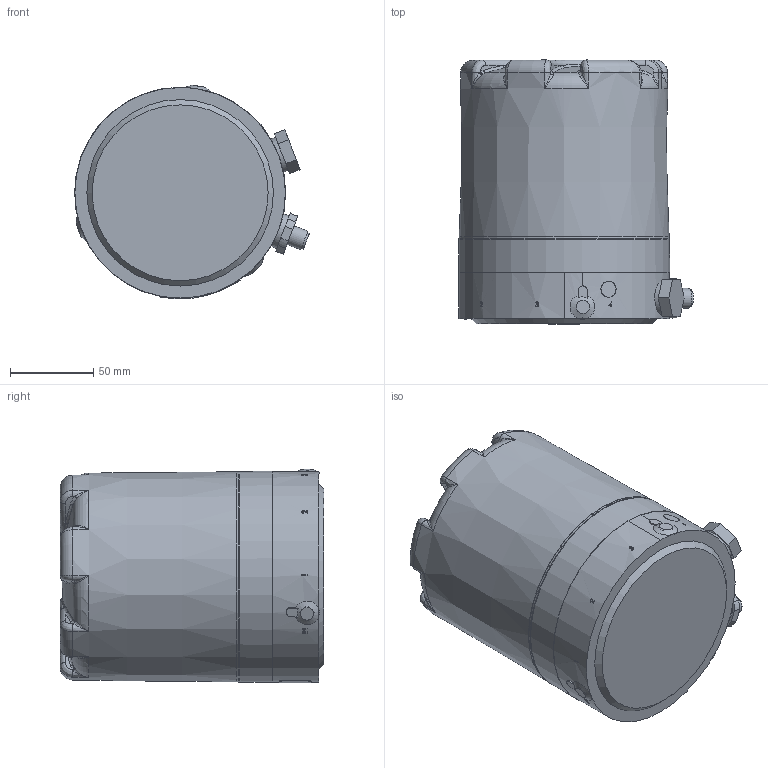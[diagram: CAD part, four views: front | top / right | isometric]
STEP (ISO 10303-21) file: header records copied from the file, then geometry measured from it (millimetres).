
FILE_DESCRIPTION(/* description */ ('STEP AP214'),/* implementation_level */ '2;1');
FILE_NAME(/* name */ 'C:\Users\fa67nh\OneDrive - SPX Flow Inc\Documents\Inventor\Website STEP Comparison\Fixed Models\Control Tops\WCB - maintainable.STEP',/* time_stamp */ '2021-04-23T13:40:30-05:00',/* author */ ('FA67NH'),/* organization */ (''),/* preprocessor_version */ 'ST-DEVELOPER v18.1',/* originating_system */ 'Autodesk Inventor 2020',/* authorisation */ '');
FILE_SCHEMA (('AUTOMOTIVE_DESIGN { 1 0 10303 214 3 1 1 }'));
Length unit declared in the file: inch
Products named in the file (1): WCB - maintainable
Bounding box: 141.27 x 158.62 x 128.63 mm (x, y, z)
Volume: 1937295.1 mm3; surface area: 89928.5 mm2
Topology: 1 solids, 1 shells, 345 faces, 867 edges, 530 vertices
Faces by surface type: bspline 137, plane 116, cylinder 38, torus 29, cone 21, sphere 4
Full cylindrical faces by diameter (mm): 1.016 x4, 8.052 x3, 10.566 x1, 12 x1
Entity records: 21643 total; most frequent: CARTESIAN_POINT 14206, ORIENTED_EDGE 1706, DIRECTION 1340, EDGE_CURVE 853, AXIS2_PLACEMENT_3D 537, VERTEX_POINT 530, EDGE_LOOP 371, FACE_OUTER_BOUND 345
